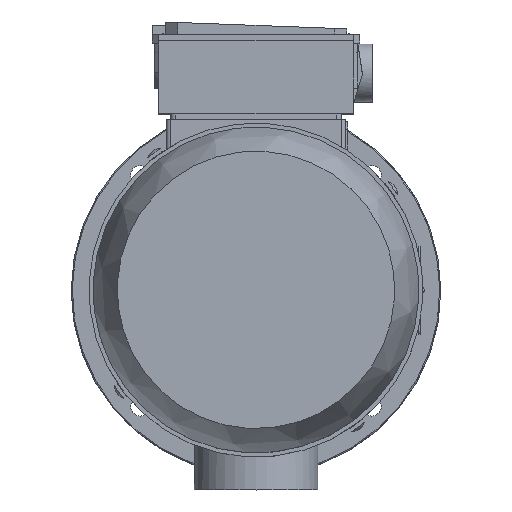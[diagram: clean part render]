
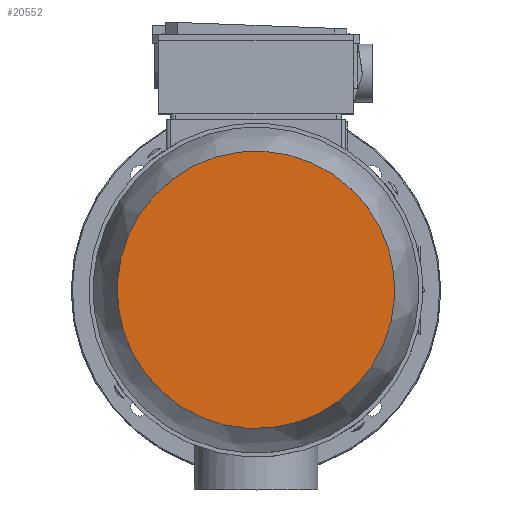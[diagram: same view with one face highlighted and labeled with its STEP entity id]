
A CAD part, top view. The second image highlights one B-rep face of the part: STEP entity #20552.
In plain terms, the highlighted planar face has unit normal (0, 0, 1).
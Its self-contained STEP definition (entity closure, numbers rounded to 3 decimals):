
#688=PLANE('',#22096);
#1769=FACE_OUTER_BOUND('',#2924,.T.);
#2924=EDGE_LOOP('',(#17418,#17419));
#4141=CIRCLE('',#22097,67.666);
#4142=CIRCLE('',#22098,67.666);
#9222=VERTEX_POINT('',#37570);
#9223=VERTEX_POINT('',#37571);
#11995=EDGE_CURVE('',#9222,#9223,#4141,.T.);
#11996=EDGE_CURVE('',#9223,#9222,#4142,.T.);
#17418=ORIENTED_EDGE('',*,*,#11995,.T.);
#17419=ORIENTED_EDGE('',*,*,#11996,.T.);
#20552=ADVANCED_FACE('',(#1769),#688,.T.);
#22096=AXIS2_PLACEMENT_3D('',#37569,#26704,#26705);
#22097=AXIS2_PLACEMENT_3D('',#37572,#26706,#26707);
#22098=AXIS2_PLACEMENT_3D('',#37573,#26708,#26709);
#26704=DIRECTION('center_axis',(0.,0.,
1.));
#26705=DIRECTION('ref_axis',(-0.802,-0.598,0.));
#26706=DIRECTION('center_axis',(0.,0.,
1.));
#26707=DIRECTION('ref_axis',(0.598,-0.802,0.));
#26708=DIRECTION('center_axis',(0.,0.,
1.));
#26709=DIRECTION('ref_axis',(0.598,-0.802,0.));
#37569=CARTESIAN_POINT('Origin',(0.,0.,
232.618));
#37570=CARTESIAN_POINT('',(-40.46,54.238,232.618));
#37571=CARTESIAN_POINT('',(54.238,40.46,232.618));
#37572=CARTESIAN_POINT('Origin',(0.,0.,
232.618));
#37573=CARTESIAN_POINT('Origin',(0.,0.,
232.618));
